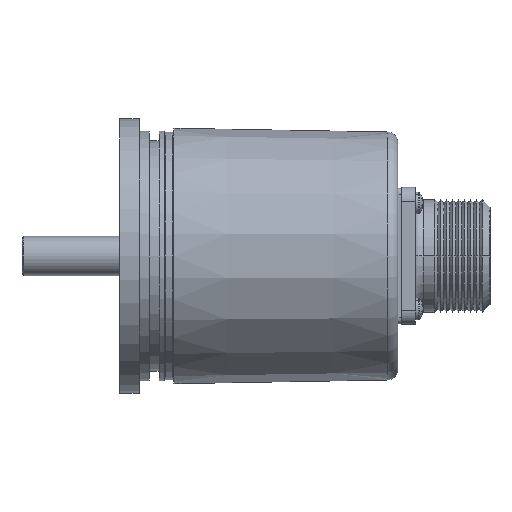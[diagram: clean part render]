
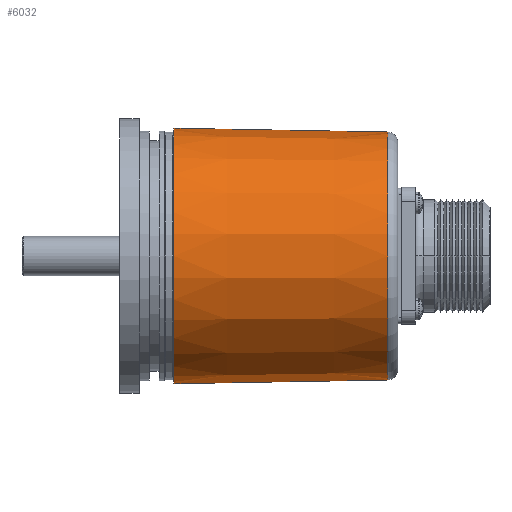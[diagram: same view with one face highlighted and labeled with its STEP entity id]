
A CAD part, front view. The second image highlights one B-rep face of the part: STEP entity #6032.
In plain terms, the highlighted conical face has half-angle 1 degrees and reference radius 32.512 mm.
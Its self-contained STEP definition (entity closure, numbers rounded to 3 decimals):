
#558 = CIRCLE ( 'NONE', #6693, 31.563 ) ;
#1244 = CARTESIAN_POINT ( 'NONE',  ( 67.578, 0., -31.563 ) ) ;
#1370 = VECTOR ( 'NONE', #9780, 1000. ) ;
#1879 = CARTESIAN_POINT ( 'NONE',  ( 13.2, 0., 0. ) ) ;
#1970 = EDGE_CURVE ( 'NONE', #10937, #4513, #4038, .T. ) ;
#1998 = CARTESIAN_POINT ( 'NONE',  ( 13.2, 0., 32.512 ) ) ;
#2555 = CARTESIAN_POINT ( 'NONE',  ( 13.2, 0., 32.512 ) ) ;
#2802 = DIRECTION ( 'NONE',  ( 0., 0., 1. ) ) ;
#3131 = CIRCLE ( 'NONE', #7531, 32.512 ) ;
#3151 = VERTEX_POINT ( 'NONE', #1244 ) ;
#3404 = ORIENTED_EDGE ( 'NONE', *, *, #6679, .T. ) ;
#4038 = LINE ( 'NONE', #2555, #1370 ) ;
#4040 = CARTESIAN_POINT ( 'NONE',  ( 67.578, 0., 0. ) ) ;
#4513 = VERTEX_POINT ( 'NONE', #1998 ) ;
#4804 = VERTEX_POINT ( 'NONE', #8305 ) ;
#4974 = DIRECTION ( 'NONE',  ( 0., 0., -1. ) ) ;
#5279 = ORIENTED_EDGE ( 'NONE', *, *, #6940, .T. ) ;
#5351 = DIRECTION ( 'NONE',  ( 0., 0., 1. ) ) ;
#5512 = ORIENTED_EDGE ( 'NONE', *, *, #10431, .F. ) ;
#5514 = ORIENTED_EDGE ( 'NONE', *, *, #1970, .T. ) ;
#6032 = ADVANCED_FACE ( 'NONE', ( #8769 ), #8499, .T. ) ;
#6679 = EDGE_CURVE ( 'NONE', #4513, #4804, #3131, .T. ) ;
#6693 = AXIS2_PLACEMENT_3D ( 'NONE', #4040, #10410, #4974 ) ;
#6816 = VECTOR ( 'NONE', #10054, 1000. ) ;
#6940 = EDGE_CURVE ( 'NONE', #3151, #10937, #558, .T. ) ;
#7531 = AXIS2_PLACEMENT_3D ( 'NONE', #1879, #8193, #2802 ) ;
#8193 = DIRECTION ( 'NONE',  ( 1., 0., 0. ) ) ;
#8205 = AXIS2_PLACEMENT_3D ( 'NONE', #9923, #11761, #5351 ) ;
#8255 = CARTESIAN_POINT ( 'NONE',  ( 13.2, 0., -32.512 ) ) ;
#8305 = CARTESIAN_POINT ( 'NONE',  ( 13.2, 0., -32.512 ) ) ;
#8499 = CONICAL_SURFACE ( 'NONE', #8205, 32.512, 0.017 ) ;
#8769 = FACE_OUTER_BOUND ( 'NONE', #9285, .T. ) ;
#9200 = CARTESIAN_POINT ( 'NONE',  ( 67.578, 0., 31.563 ) ) ;
#9285 = EDGE_LOOP ( 'NONE', ( #5512, #5279, #5514, #3404 ) ) ;
#9780 = DIRECTION ( 'NONE',  ( -1., 0., 0.017 ) ) ;
#9923 = CARTESIAN_POINT ( 'NONE',  ( 13.2, 0., 0. ) ) ;
#10054 = DIRECTION ( 'NONE',  ( -1., 0., -0.017 ) ) ;
#10094 = LINE ( 'NONE', #8255, #6816 ) ;
#10410 = DIRECTION ( 'NONE',  ( -1., 0., 0. ) ) ;
#10431 = EDGE_CURVE ( 'NONE', #3151, #4804, #10094, .T. ) ;
#10937 = VERTEX_POINT ( 'NONE', #9200 ) ;
#11761 = DIRECTION ( 'NONE',  ( -1., 0., 0. ) ) ;
